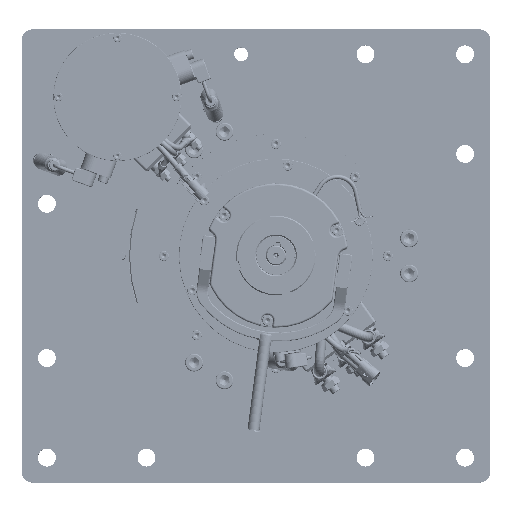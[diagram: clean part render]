
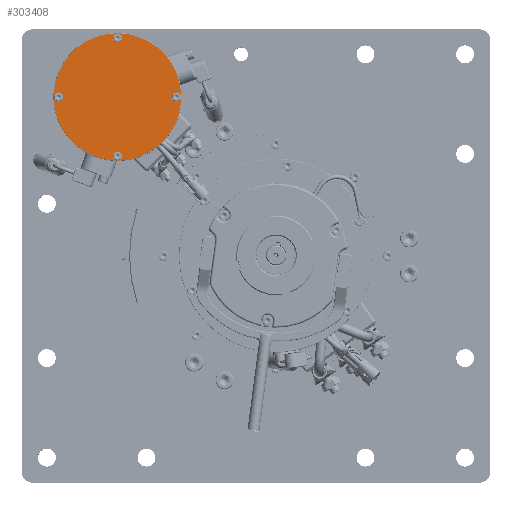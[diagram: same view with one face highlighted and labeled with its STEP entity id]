
A CAD part, top view. The second image highlights one B-rep face of the part: STEP entity #303408.
In plain terms, the highlighted planar face has unit normal (0, 0, 1).
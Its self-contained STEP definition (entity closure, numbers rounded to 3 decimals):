
#9399=FACE_BOUND('',#52141,.T.);
#9400=FACE_BOUND('',#52142,.T.);
#9401=FACE_BOUND('',#52143,.T.);
#9402=FACE_BOUND('',#52144,.T.);
#20185=CIRCLE('',#329589,64.);
#20186=CIRCLE('',#329590,4.5);
#20187=CIRCLE('',#329591,4.5);
#20188=CIRCLE('',#329592,4.5);
#20189=CIRCLE('',#329593,4.5);
#34760=FACE_OUTER_BOUND('',#52140,.T.);
#52140=EDGE_LOOP('',(#246341));
#52141=EDGE_LOOP('',(#246342));
#52142=EDGE_LOOP('',(#246343));
#52143=EDGE_LOOP('',(#246344));
#52144=EDGE_LOOP('',(#246345));
#131290=VERTEX_POINT('',#513045);
#131291=VERTEX_POINT('',#513047);
#131292=VERTEX_POINT('',#513049);
#131293=VERTEX_POINT('',#513051);
#131294=VERTEX_POINT('',#513053);
#170682=EDGE_CURVE('',#131290,#131290,#20185,.T.);
#170683=EDGE_CURVE('',#131291,#131291,#20186,.T.);
#170684=EDGE_CURVE('',#131292,#131292,#20187,.T.);
#170685=EDGE_CURVE('',#131293,#131293,#20188,.T.);
#170686=EDGE_CURVE('',#131294,#131294,#20189,.T.);
#246341=ORIENTED_EDGE('',*,*,#170682,.F.);
#246342=ORIENTED_EDGE('',*,*,#170683,.T.);
#246343=ORIENTED_EDGE('',*,*,#170684,.T.);
#246344=ORIENTED_EDGE('',*,*,#170685,.T.);
#246345=ORIENTED_EDGE('',*,*,#170686,.T.);
#272506=PLANE('',#329588);
#303408=ADVANCED_FACE('',(#34760,#9399,#9400,#9401,#9402),#272506,.T.);
#329588=AXIS2_PLACEMENT_3D('',#513044,#401773,#401774);
#329589=AXIS2_PLACEMENT_3D('',#513046,#401775,#401776);
#329590=AXIS2_PLACEMENT_3D('',#513048,#401777,#401778);
#329591=AXIS2_PLACEMENT_3D('',#513050,#401779,#401780);
#329592=AXIS2_PLACEMENT_3D('',#513052,#401781,#401782);
#329593=AXIS2_PLACEMENT_3D('',#513054,#401783,#401784);
#401773=DIRECTION('center_axis',(0.,0.,
1.));
#401774=DIRECTION('ref_axis',(0.,1.,0.));
#401775=DIRECTION('center_axis',(0.,0.,
-1.));
#401776=DIRECTION('ref_axis',(0.,-1.,0.));
#401777=DIRECTION('center_axis',(0.,0.,
-1.));
#401778=DIRECTION('ref_axis',(1.,0.,0.));
#401779=DIRECTION('center_axis',(0.,0.,
-1.));
#401780=DIRECTION('ref_axis',(0.,-1.,0.));
#401781=DIRECTION('center_axis',(0.,0.,
-1.));
#401782=DIRECTION('ref_axis',(0.,1.,0.));
#401783=DIRECTION('center_axis',(0.,0.,
-1.));
#401784=DIRECTION('ref_axis',(-1.,0.,0.));
#513044=CARTESIAN_POINT('Origin',(-171.649,191.349,444.8));
#513045=CARTESIAN_POINT('',(-171.649,95.099,444.8));
#513046=CARTESIAN_POINT('Origin',(-171.649,159.099,444.8));
#513047=CARTESIAN_POINT('',(-176.149,218.349,444.8));
#513048=CARTESIAN_POINT('Origin',(-171.649,218.349,444.8));
#513049=CARTESIAN_POINT('',(-112.399,163.599,444.8));
#513050=CARTESIAN_POINT('Origin',(-112.399,159.099,444.8));
#513051=CARTESIAN_POINT('',(-230.899,154.599,444.8));
#513052=CARTESIAN_POINT('Origin',(-230.899,159.099,444.8));
#513053=CARTESIAN_POINT('',(-167.149,99.849,444.8));
#513054=CARTESIAN_POINT('Origin',(-171.649,99.849,444.8));
